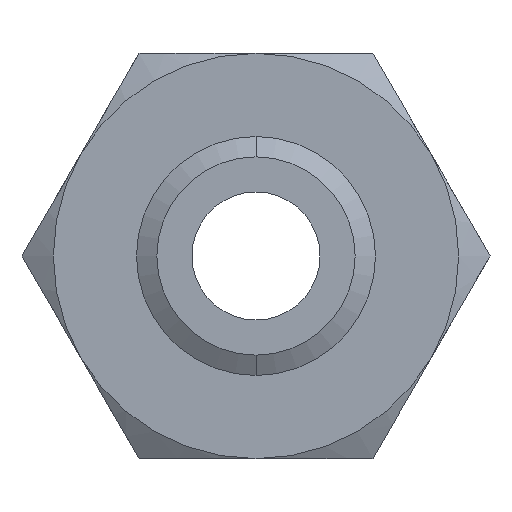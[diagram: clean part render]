
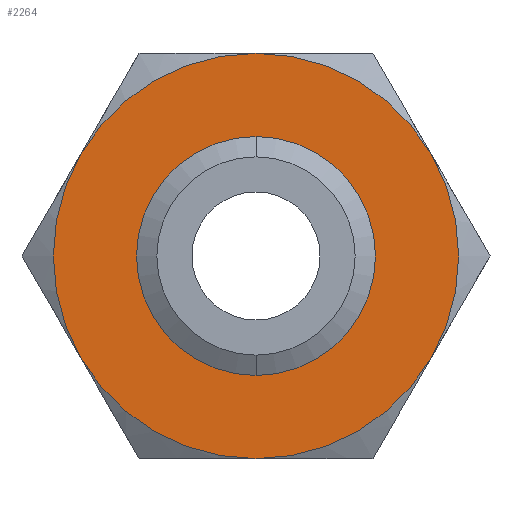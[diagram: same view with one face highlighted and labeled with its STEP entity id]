
A CAD part, front view. The second image highlights one B-rep face of the part: STEP entity #2264.
In plain terms, the highlighted planar face has unit normal (0, -1, 0).
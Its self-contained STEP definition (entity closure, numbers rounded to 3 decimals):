
#2 = VERTEX_POINT ( 'NONE', #441 ) ;
#8 = EDGE_CURVE ( 'NONE', #10, #13, #417, .T. ) ;
#9 = ORIENTED_EDGE ( 'NONE', *, *, #18, .F. ) ;
#10 = VERTEX_POINT ( 'NONE', #413 ) ;
#11 = ORIENTED_EDGE ( 'NONE', *, *, #19, .F. ) ;
#12 = EDGE_CURVE ( 'NONE', #14, #15, #473, .T. ) ;
#13 = VERTEX_POINT ( 'NONE', #468 ) ;
#14 = VERTEX_POINT ( 'NONE', #467 ) ;
#15 = VERTEX_POINT ( 'NONE', #466 ) ;
#16 = ORIENTED_EDGE ( 'NONE', *, *, #12, .F. ) ;
#17 = ORIENTED_EDGE ( 'NONE', *, *, #8, .F. ) ;
#18 = EDGE_CURVE ( 'NONE', #13, #2, #464, .T. ) ;
#19 = EDGE_CURVE ( 'NONE', #2, #14, #459, .T. ) ;
#33 = EDGE_CURVE ( 'NONE', #143, #204, #492, .T. ) ;
#53 = VERTEX_POINT ( 'NONE', #557 ) ;
#54 = ORIENTED_EDGE ( 'NONE', *, *, #33, .F. ) ;
#55 = EDGE_CURVE ( 'NONE', #53, #10, #556, .T. ) ;
#56 = ORIENTED_EDGE ( 'NONE', *, *, #203, .F. ) ;
#113 = ORIENTED_EDGE ( 'NONE', *, *, #115, .F. ) ;
#114 = EDGE_LOOP ( 'NONE', ( #56, #54 ) ) ;
#115 = EDGE_CURVE ( 'NONE', #15, #53, #664, .T. ) ;
#131 = ORIENTED_EDGE ( 'NONE', *, *, #55, .F. ) ;
#143 = VERTEX_POINT ( 'NONE', #736 ) ;
#203 = EDGE_CURVE ( 'NONE', #204, #143, #894, .T. ) ;
#204 = VERTEX_POINT ( 'NONE', #889 ) ;
#413 = CARTESIAN_POINT ( 'NONE',  ( 0., 0., -47.5 ) ) ;
#414 = DIRECTION ( 'NONE',  ( 0., 0., 1. ) ) ;
#415 = DIRECTION ( 'NONE',  ( 0., 1., 0. ) ) ;
#416 = AXIS2_PLACEMENT_3D ( 'NONE', #428, #415, #414 ) ;
#417 = CIRCLE ( 'NONE', #416, 47.5 ) ;
#428 = CARTESIAN_POINT ( 'NONE',  ( 0., 0., 0. ) ) ;
#441 = CARTESIAN_POINT ( 'NONE',  ( -41.136, 0., 23.75 ) ) ;
#456 = DIRECTION ( 'NONE',  ( 0., 0., 1. ) ) ;
#457 = DIRECTION ( 'NONE',  ( 0., 1., 0. ) ) ;
#458 = AXIS2_PLACEMENT_3D ( 'NONE', #465, #457, #456 ) ;
#459 = CIRCLE ( 'NONE', #458, 47.5 ) ;
#460 = DIRECTION ( 'NONE',  ( 0., 0., 1. ) ) ;
#461 = DIRECTION ( 'NONE',  ( 0., 1., 0. ) ) ;
#462 = CARTESIAN_POINT ( 'NONE',  ( 0., 0., 0. ) ) ;
#463 = AXIS2_PLACEMENT_3D ( 'NONE', #462, #461, #460 ) ;
#464 = CIRCLE ( 'NONE', #463, 47.5 ) ;
#465 = CARTESIAN_POINT ( 'NONE',  ( 0., 0., 0. ) ) ;
#466 = CARTESIAN_POINT ( 'NONE',  ( 41.136, 0., 23.75 ) ) ;
#467 = CARTESIAN_POINT ( 'NONE',  ( 0., 0., 47.5 ) ) ;
#468 = CARTESIAN_POINT ( 'NONE',  ( -41.136, 0., -23.75 ) ) ;
#469 = DIRECTION ( 'NONE',  ( 0., 0., 1. ) ) ;
#470 = DIRECTION ( 'NONE',  ( 0., 1., 0. ) ) ;
#471 = CARTESIAN_POINT ( 'NONE',  ( 0., 0., 0. ) ) ;
#472 = AXIS2_PLACEMENT_3D ( 'NONE', #471, #470, #469 ) ;
#473 = CIRCLE ( 'NONE', #472, 47.5 ) ;
#488 = DIRECTION ( 'NONE',  ( 0., 0., -1. ) ) ;
#489 = DIRECTION ( 'NONE',  ( 0., -1., 0. ) ) ;
#490 = CARTESIAN_POINT ( 'NONE',  ( 0., 0., 0. ) ) ;
#491 = AXIS2_PLACEMENT_3D ( 'NONE', #490, #489, #488 ) ;
#492 = CIRCLE ( 'NONE', #491, 23.237 ) ;
#552 = DIRECTION ( 'NONE',  ( 0., 0., 1. ) ) ;
#553 = DIRECTION ( 'NONE',  ( 0., 1., 0. ) ) ;
#554 = CARTESIAN_POINT ( 'NONE',  ( 0., 0., 0. ) ) ;
#555 = AXIS2_PLACEMENT_3D ( 'NONE', #554, #553, #552 ) ;
#556 = CIRCLE ( 'NONE', #555, 47.5 ) ;
#557 = CARTESIAN_POINT ( 'NONE',  ( 41.136, 0., -23.75 ) ) ;
#660 = DIRECTION ( 'NONE',  ( 0., 0., 1. ) ) ;
#661 = DIRECTION ( 'NONE',  ( 0., 1., 0. ) ) ;
#662 = CARTESIAN_POINT ( 'NONE',  ( 0., 0., 0. ) ) ;
#663 = AXIS2_PLACEMENT_3D ( 'NONE', #662, #661, #660 ) ;
#664 = CIRCLE ( 'NONE', #663, 47.5 ) ;
#736 = CARTESIAN_POINT ( 'NONE',  ( 0., 0., 23.237 ) ) ;
#889 = CARTESIAN_POINT ( 'NONE',  ( 0., 0., -23.237 ) ) ;
#890 = DIRECTION ( 'NONE',  ( 0., 0., -1. ) ) ;
#891 = DIRECTION ( 'NONE',  ( 0., -1., 0. ) ) ;
#892 = CARTESIAN_POINT ( 'NONE',  ( 0., 0., 0. ) ) ;
#893 = AXIS2_PLACEMENT_3D ( 'NONE', #892, #891, #890 ) ;
#894 = CIRCLE ( 'NONE', #893, 23.237 ) ;
#1829 = DIRECTION ( 'NONE',  ( 0., 0., 1. ) ) ;
#1830 = DIRECTION ( 'NONE',  ( 0., 1., 0. ) ) ;
#1831 = CARTESIAN_POINT ( 'NONE',  ( 27.424, 0., -47.5 ) ) ;
#1832 = AXIS2_PLACEMENT_3D ( 'NONE', #1831, #1830, #1829 ) ;
#1833 = PLANE ( 'NONE',  #1832 ) ;
#1834 = FACE_BOUND ( 'NONE', #114, .T. ) ;
#1838 = FACE_OUTER_BOUND ( 'NONE', #2267, .T. ) ;
#2264 = ADVANCED_FACE ( 'NONE', ( #1838, #1834 ), #1833, .F. ) ;
#2267 = EDGE_LOOP ( 'NONE', ( #16, #11, #9, #17, #131, #113 ) ) ;
